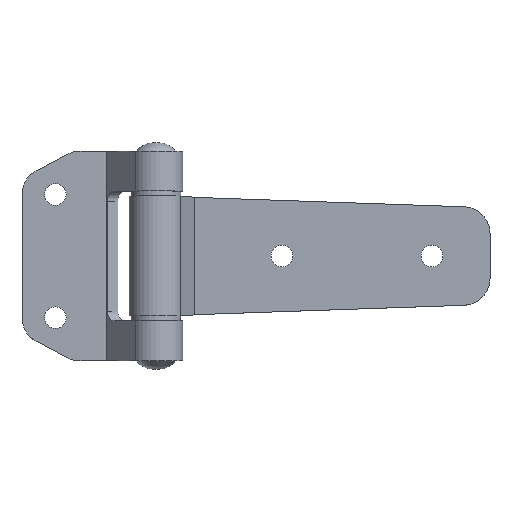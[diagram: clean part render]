
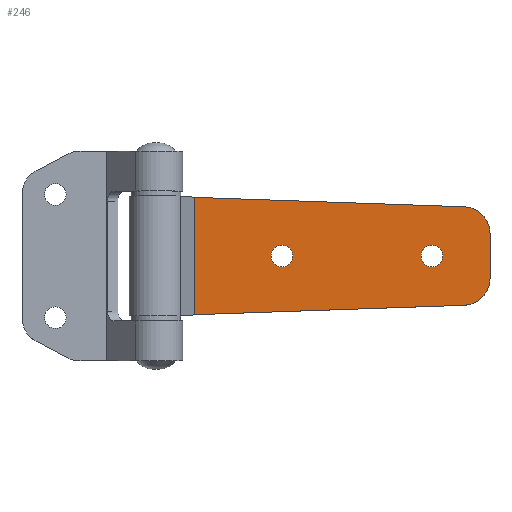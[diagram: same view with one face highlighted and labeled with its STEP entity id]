
A CAD part, top view. The second image highlights one B-rep face of the part: STEP entity #246.
In plain terms, the highlighted planar face has unit normal (0, 0, 1).
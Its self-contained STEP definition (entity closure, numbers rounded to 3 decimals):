
#96 = VERTEX_POINT ( 'NONE', #2371 ) ;
#97 = VERTEX_POINT ( 'NONE', #2370 ) ;
#102 = VERTEX_POINT ( 'NONE', #2260 ) ;
#117 = EDGE_CURVE ( 'NONE', #102, #97, #2345, .T. ) ;
#162 = VERTEX_POINT ( 'NONE', #2284 ) ;
#165 = VERTEX_POINT ( 'NONE', #2380 ) ;
#170 = EDGE_CURVE ( 'NONE', #162, #165, #2229, .T. ) ;
#183 = EDGE_CURVE ( 'NONE', #188, #191, #2457, .T. ) ;
#188 = VERTEX_POINT ( 'NONE', #2395 ) ;
#191 = VERTEX_POINT ( 'NONE', #2410 ) ;
#206 = EDGE_CURVE ( 'NONE', #97, #102, #2476, .T. ) ;
#215 = EDGE_CURVE ( 'NONE', #241, #256, #2404, .T. ) ;
#223 = VERTEX_POINT ( 'NONE', #2253 ) ;
#237 = EDGE_CURVE ( 'NONE', #96, #223, #895, .T. ) ;
#240 = EDGE_CURVE ( 'NONE', #165, #162, #890, .T. ) ;
#241 = VERTEX_POINT ( 'NONE', #926 ) ;
#245 = EDGE_LOOP ( 'NONE', ( #290, #319 ) ) ;
#246 = ADVANCED_FACE ( 'NONE', ( #927, #887, #914 ), #911, .F. ) ;
#250 = EDGE_CURVE ( 'NONE', #256, #96, #900, .T. ) ;
#256 = VERTEX_POINT ( 'NONE', #905 ) ;
#265 = ORIENTED_EDGE ( 'NONE', *, *, #250, .T. ) ;
#267 = ORIENTED_EDGE ( 'NONE', *, *, #183, .T. ) ;
#268 = ORIENTED_EDGE ( 'NONE', *, *, #237, .T. ) ;
#269 = ORIENTED_EDGE ( 'NONE', *, *, #279, .T. ) ;
#274 = ORIENTED_EDGE ( 'NONE', *, *, #240, .F. ) ;
#279 = EDGE_CURVE ( 'NONE', #223, #188, #866, .T. ) ;
#284 = ORIENTED_EDGE ( 'NONE', *, *, #285, .T. ) ;
#285 = EDGE_CURVE ( 'NONE', #191, #241, #851, .T. ) ;
#290 = ORIENTED_EDGE ( 'NONE', *, *, #117, .F. ) ;
#309 = ORIENTED_EDGE ( 'NONE', *, *, #170, .F. ) ;
#313 = ORIENTED_EDGE ( 'NONE', *, *, #215, .T. ) ;
#314 = EDGE_LOOP ( 'NONE', ( #269, #267, #284, #313, #265, #268 ) ) ;
#316 = EDGE_LOOP ( 'NONE', ( #309, #274 ) ) ;
#319 = ORIENTED_EDGE ( 'NONE', *, *, #206, .F. ) ;
#851 = LINE ( 'NONE', #855, #852 ) ;
#852 = VECTOR ( 'NONE', #858, 1000. ) ;
#855 = CARTESIAN_POINT ( 'NONE',  ( -47.379, -18., 4. ) ) ;
#858 = DIRECTION ( 'NONE',  ( 0.999, 0.035, 0. ) ) ;
#861 = VECTOR ( 'NONE', #869, 1000. ) ;
#866 = LINE ( 'NONE', #870, #861 ) ;
#869 = DIRECTION ( 'NONE',  ( -0.999, 0.035, 0. ) ) ;
#870 = CARTESIAN_POINT ( 'NONE',  ( -47.379, 18., 4. ) ) ;
#877 = AXIS2_PLACEMENT_3D ( 'NONE', #930, #936, #935 ) ;
#881 = DIRECTION ( 'NONE',  ( 0., 1., 0. ) ) ;
#887 = FACE_BOUND ( 'NONE', #316, .T. ) ;
#890 = CIRCLE ( 'NONE', #920, 3.25 ) ;
#895 = CIRCLE ( 'NONE', #877, 8. ) ;
#896 = DIRECTION ( 'NONE',  ( -1., 0., 0. ) ) ;
#898 = VECTOR ( 'NONE', #881, 1000. ) ;
#899 = CARTESIAN_POINT ( 'NONE',  ( 52.56, 6.785, 4. ) ) ;
#900 = LINE ( 'NONE', #899, #898 ) ;
#902 = DIRECTION ( 'NONE',  ( 1., 0., 0. ) ) ;
#903 = DIRECTION ( 'NONE',  ( 0., 0., 1. ) ) ;
#905 = CARTESIAN_POINT ( 'NONE',  ( 52.56, -6.785, 4. ) ) ;
#911 = PLANE ( 'NONE',  #924 ) ;
#914 = FACE_OUTER_BOUND ( 'NONE', #314, .T. ) ;
#916 = DIRECTION ( 'NONE',  ( 0., 0., -1. ) ) ;
#917 = CARTESIAN_POINT ( 'NONE',  ( 44.56, -6.785, 4. ) ) ;
#919 = CARTESIAN_POINT ( 'NONE',  ( 35.121, 0., 4. ) ) ;
#920 = AXIS2_PLACEMENT_3D ( 'NONE', #919, #903, #902 ) ;
#924 = AXIS2_PLACEMENT_3D ( 'NONE', #917, #916, #896 ) ;
#926 = CARTESIAN_POINT ( 'NONE',  ( 44.839, -14.78, 4. ) ) ;
#927 = FACE_BOUND ( 'NONE', #245, .T. ) ;
#930 = CARTESIAN_POINT ( 'NONE',  ( 44.56, 6.785, 4. ) ) ;
#935 = DIRECTION ( 'NONE',  ( 1., 0., 0. ) ) ;
#936 = DIRECTION ( 'NONE',  ( 0., 0., 1. ) ) ;
#2223 = AXIS2_PLACEMENT_3D ( 'NONE', #2240, #2239, #2231 ) ;
#2229 = CIRCLE ( 'NONE', #2223, 3.25 ) ;
#2231 = DIRECTION ( 'NONE',  ( 1., 0., 0. ) ) ;
#2239 = DIRECTION ( 'NONE',  ( 0., 0., 1. ) ) ;
#2240 = CARTESIAN_POINT ( 'NONE',  ( 35.121, 0., 4. ) ) ;
#2253 = CARTESIAN_POINT ( 'NONE',  ( 44.839, 14.78, 4. ) ) ;
#2260 = CARTESIAN_POINT ( 'NONE',  ( -13.129, 0., 4. ) ) ;
#2284 = CARTESIAN_POINT ( 'NONE',  ( 31.871, 0., 4. ) ) ;
#2286 = CARTESIAN_POINT ( 'NONE',  ( -9.879, 0., 4. ) ) ;
#2332 = AXIS2_PLACEMENT_3D ( 'NONE', #2286, #2349, #2348 ) ;
#2345 = CIRCLE ( 'NONE', #2332, 3.25 ) ;
#2348 = DIRECTION ( 'NONE',  ( 1., 0., 0. ) ) ;
#2349 = DIRECTION ( 'NONE',  ( 0., 0., 1. ) ) ;
#2370 = CARTESIAN_POINT ( 'NONE',  ( -6.629, 0., 4. ) ) ;
#2371 = CARTESIAN_POINT ( 'NONE',  ( 52.56, 6.785, 4. ) ) ;
#2380 = CARTESIAN_POINT ( 'NONE',  ( 38.371, 0., 4. ) ) ;
#2395 = CARTESIAN_POINT ( 'NONE',  ( -36.203, 17.61, 4. ) ) ;
#2404 = CIRCLE ( 'NONE', #2435, 8. ) ;
#2410 = CARTESIAN_POINT ( 'NONE',  ( -36.203, -17.61, 4. ) ) ;
#2416 = DIRECTION ( 'NONE',  ( 1., 0., 0. ) ) ;
#2417 = DIRECTION ( 'NONE',  ( 0., 0., 1. ) ) ;
#2418 = CARTESIAN_POINT ( 'NONE',  ( -9.879, 0., 4. ) ) ;
#2419 = AXIS2_PLACEMENT_3D ( 'NONE', #2418, #2417, #2416 ) ;
#2435 = AXIS2_PLACEMENT_3D ( 'NONE', #2484, #2449, #2448 ) ;
#2448 = DIRECTION ( 'NONE',  ( -1., 0., 0. ) ) ;
#2449 = DIRECTION ( 'NONE',  ( 0., 0., 1. ) ) ;
#2456 = CARTESIAN_POINT ( 'NONE',  ( -36.203, 17.61, 4. ) ) ;
#2457 = B_SPLINE_CURVE_WITH_KNOTS ( 'NONE', 3,
 ( #2456, #2473, #2472, #2471 ),
 .UNSPECIFIED., .F., .F.,
 ( 4, 4 ),
 ( 0., 1. ),
 .UNSPECIFIED. ) ;
#2471 = CARTESIAN_POINT ( 'NONE',  ( -36.203, -17.61, 4. ) ) ;
#2472 = CARTESIAN_POINT ( 'NONE',  ( -36.202, -5.87, 4. ) ) ;
#2473 = CARTESIAN_POINT ( 'NONE',  ( -36.202, 5.87, 4. ) ) ;
#2476 = CIRCLE ( 'NONE', #2419, 3.25 ) ;
#2484 = CARTESIAN_POINT ( 'NONE',  ( 44.56, -6.785, 4. ) ) ;
